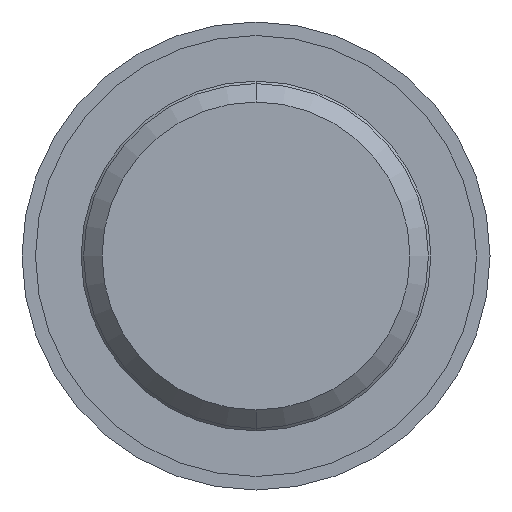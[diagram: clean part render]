
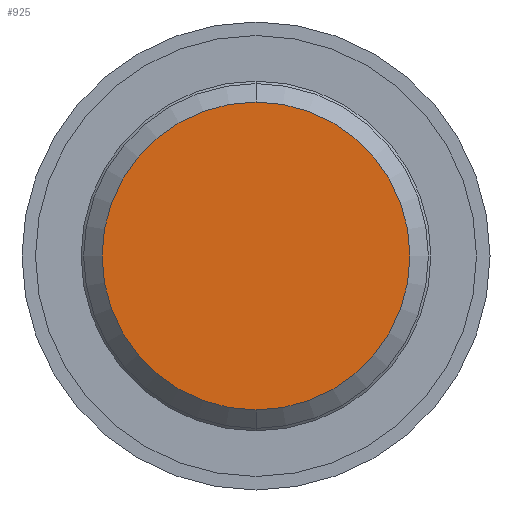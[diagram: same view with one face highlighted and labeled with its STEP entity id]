
A CAD part, front view. The second image highlights one B-rep face of the part: STEP entity #925.
In plain terms, the highlighted planar face has unit normal (0, -1, 0).
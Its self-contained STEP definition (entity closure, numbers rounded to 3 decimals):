
#35 = DIRECTION ( 'NONE',  ( 0., 0., 1. ) ) ;
#50 = DIRECTION ( 'NONE',  ( 0., 1., 0. ) ) ;
#52 = CARTESIAN_POINT ( 'NONE',  ( 0., 0., -6.25 ) ) ;
#77 = CIRCLE ( 'NONE', #706, 6.25 ) ;
#162 = AXIS2_PLACEMENT_3D ( 'NONE', #799, #50, #951 ) ;
#187 = DIRECTION ( 'NONE',  ( 0., 0., 1. ) ) ;
#253 = CIRCLE ( 'NONE', #162, 6.25 ) ;
#340 = DIRECTION ( 'NONE',  ( 0., 1., 0. ) ) ;
#485 = CARTESIAN_POINT ( 'NONE',  ( 0., 0., 6.25 ) ) ;
#542 = VERTEX_POINT ( 'NONE', #485 ) ;
#562 = PLANE ( 'NONE',  #816 ) ;
#601 = ORIENTED_EDGE ( 'NONE', *, *, #657, .F. ) ;
#603 = EDGE_LOOP ( 'NONE', ( #601, #795 ) ) ;
#621 = VERTEX_POINT ( 'NONE', #52 ) ;
#638 = DIRECTION ( 'NONE',  ( 0., 1., 0. ) ) ;
#657 = EDGE_CURVE ( 'NONE', #542, #621, #77, .T. ) ;
#706 = AXIS2_PLACEMENT_3D ( 'NONE', #719, #638, #35 ) ;
#719 = CARTESIAN_POINT ( 'NONE',  ( 0., 0., 0. ) ) ;
#759 = EDGE_CURVE ( 'NONE', #621, #542, #253, .T. ) ;
#795 = ORIENTED_EDGE ( 'NONE', *, *, #759, .F. ) ;
#799 = CARTESIAN_POINT ( 'NONE',  ( 0., 0., 0. ) ) ;
#816 = AXIS2_PLACEMENT_3D ( 'NONE', #860, #340, #187 ) ;
#860 = CARTESIAN_POINT ( 'NONE',  ( 6.25, 0., 0. ) ) ;
#876 = FACE_OUTER_BOUND ( 'NONE', #603, .T. ) ;
#925 = ADVANCED_FACE ( 'NONE', ( #876 ), #562, .F. ) ;
#951 = DIRECTION ( 'NONE',  ( 0., 0., 1. ) ) ;
